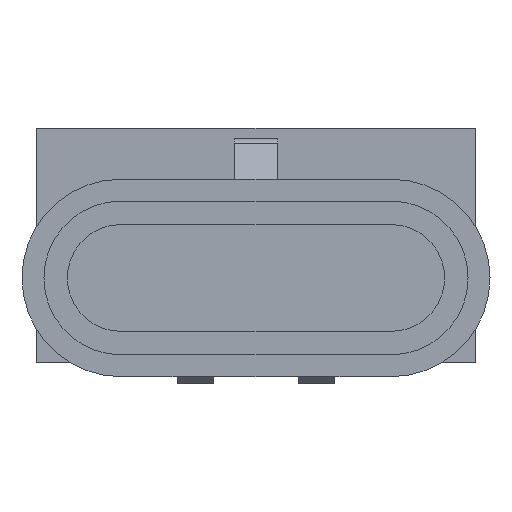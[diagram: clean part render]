
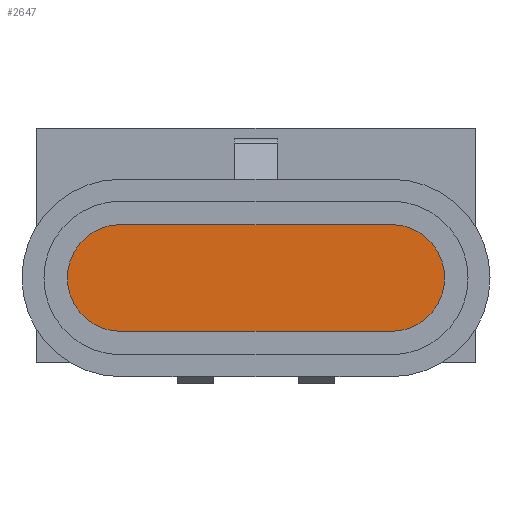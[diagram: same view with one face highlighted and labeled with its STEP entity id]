
A CAD part, front view. The second image highlights one B-rep face of the part: STEP entity #2647.
In plain terms, the highlighted planar face has unit normal (0, -1, 0) as drawn and (0, 0, -1) by its records, which use the part's own axes.
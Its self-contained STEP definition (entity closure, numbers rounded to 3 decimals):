
#157=LINE('',#4166,#383);
#161=LINE('',#4178,#387);
#383=VECTOR('',#3364,18.5);
#387=VECTOR('',#3376,18.5);
#536=PLANE('',#2863);
#687=FACE_OUTER_BOUND('',#856,.T.);
#856=EDGE_LOOP('',(#2006,#2007,#2008,#2009));
#1024=CIRCLE('',#2858,3.65);
#1026=CIRCLE('',#2862,3.65);
#1215=VERTEX_POINT('',#4163);
#1216=VERTEX_POINT('',#4165);
#1218=VERTEX_POINT('',#4171);
#1220=VERTEX_POINT('',#4177);
#1504=EDGE_CURVE('',#1216,#1215,#157,.T.);
#1507=EDGE_CURVE('',#1218,#1216,#1024,.T.);
#1510=EDGE_CURVE('',#1220,#1218,#161,.T.);
#1513=EDGE_CURVE('',#1215,#1220,#1026,.T.);
#2006=ORIENTED_EDGE('',*,*,#1507,.T.);
#2007=ORIENTED_EDGE('',*,*,#1504,.T.);
#2008=ORIENTED_EDGE('',*,*,#1513,.T.);
#2009=ORIENTED_EDGE('',*,*,#1510,.T.);
#2647=ADVANCED_FACE('',(#687),#536,.F.);
#2858=AXIS2_PLACEMENT_3D('',#4172,#3370,#3371);
#2862=AXIS2_PLACEMENT_3D('',#4182,#3382,#3383);
#2863=AXIS2_PLACEMENT_3D('',#4183,#3384,#3385);
#3364=DIRECTION('',(1.,0.,0.));
#3370=DIRECTION('center_axis',(0.,0.,-1.));
#3371=DIRECTION('ref_axis',(1.,0.,0.));
#3376=DIRECTION('',(-1.,0.,0.));
#3382=DIRECTION('center_axis',(0.,0.,-1.));
#3383=DIRECTION('ref_axis',(1.,0.,0.));
#3384=DIRECTION('center_axis',(0.,0.,1.));
#3385=DIRECTION('ref_axis',(1.,0.,0.));
#4163=CARTESIAN_POINT('',(9.25,-2.1,-60.5));
#4165=CARTESIAN_POINT('',(-9.25,-2.1,-60.5));
#4166=CARTESIAN_POINT('',(-9.25,-2.1,-60.5));
#4171=CARTESIAN_POINT('',(-9.25,-9.4,-60.5));
#4172=CARTESIAN_POINT('Origin',(-9.25,-5.75,-60.5));
#4177=CARTESIAN_POINT('',(9.25,-9.4,-60.5));
#4178=CARTESIAN_POINT('',(9.25,-9.4,-60.5));
#4182=CARTESIAN_POINT('Origin',(9.25,-5.75,-60.5));
#4183=CARTESIAN_POINT('Origin',(-9.25,-5.75,-60.5));
